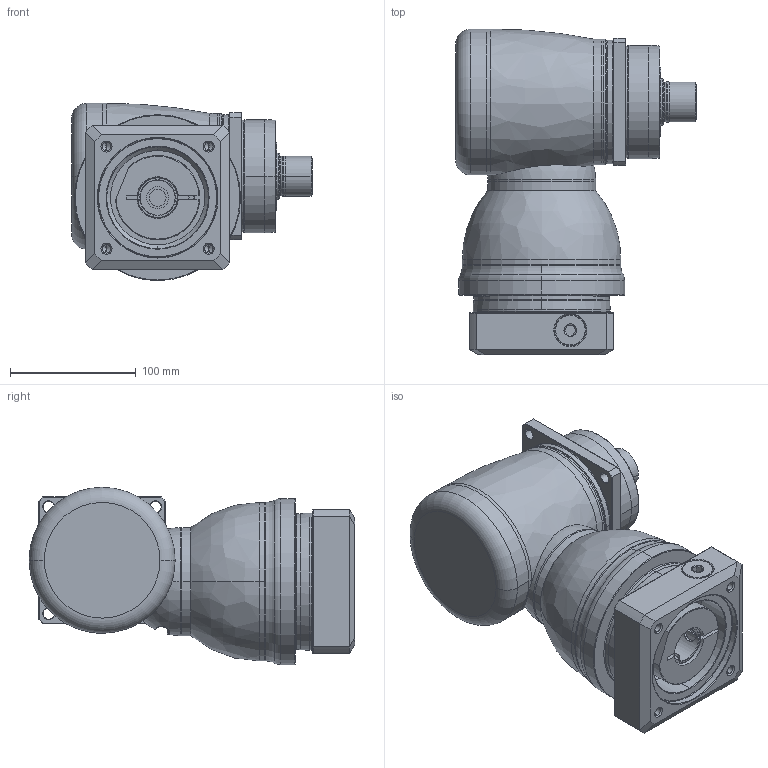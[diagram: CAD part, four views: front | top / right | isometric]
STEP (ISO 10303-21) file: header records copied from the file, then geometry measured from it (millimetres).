
FILE_DESCRIPTION((''),'2;1');
FILE_NAME('KF100_S3_1ST_28-P0409600101_ASM','2016-07-01T',('d01943'),(''),'PRO/ENGINEER BY PARAMETRIC TECHNOLOGY CORPORATION, 2008410','PRO/ENGINEER BY PARAMETRIC TECHNOLOGY CORPORATION, 2008410','');
FILE_SCHEMA(('CONFIG_CONTROL_DESIGN'));
Length unit declared in the file: millimetre
Products named in the file (11): P1008400002; P1804400001; P0915402001; P1315400001; P1007400001; P1318400201; P0409600101; P0503600010; P0912402001; 21711418017; KF100_S3_1ST_28-P0409600101_ASM
Assembly tree (10 placements, depth 2):
  KF100_S3_1ST_28-P0409600101_ASM
    P1008400002
    P1804400001
    P0915402001
    P1315400001
    P1007400001
    P1318400201
    P0409600101
    P0503600010
    P0912402001
    21711418017
Bounding box: 191.3 x 259 x 141 mm (x, y, z)
Volume: 2811699.2 mm3; surface area: 323717.3 mm2
Topology: 11 solids, 11 shells, 482 faces, 1068 edges, 627 vertices
Faces by surface type: cylinder 156, cone 122, plane 98, torus 68, bspline 36, sphere 2
Entity records: 19222 total; most frequent: CARTESIAN_POINT 8428, DIRECTION 2368, ORIENTED_EDGE 2096, EDGE_CURVE 1048, AXIS2_PLACEMENT_3D 1007, VERTEX_POINT 627, EDGE_LOOP 545, CIRCLE 540
